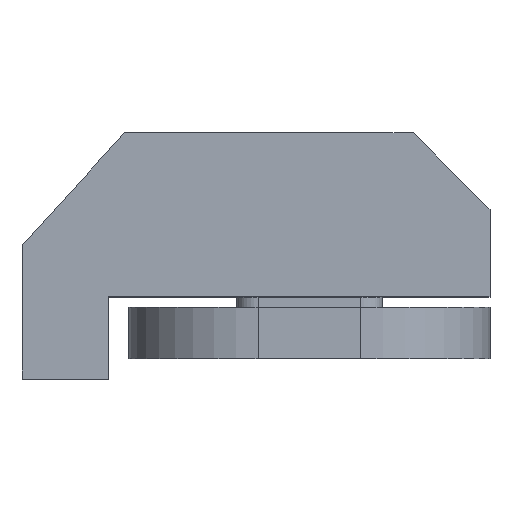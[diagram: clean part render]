
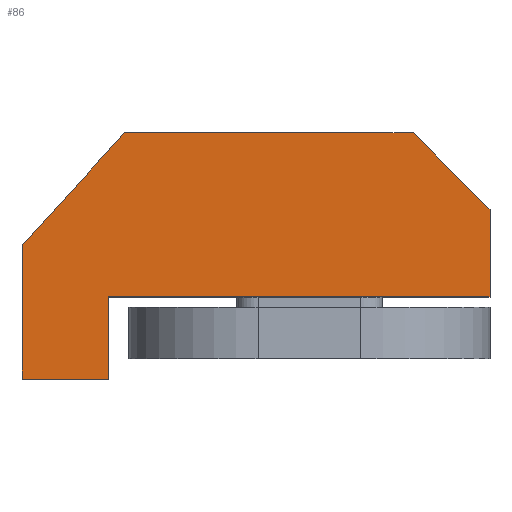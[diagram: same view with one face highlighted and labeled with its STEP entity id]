
A CAD part, top view. The second image highlights one B-rep face of the part: STEP entity #86.
In plain terms, the highlighted planar face has unit normal (0, 0, 1).
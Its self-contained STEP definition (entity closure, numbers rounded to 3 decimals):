
#86=ADVANCED_FACE('',(#137),#138,.T.);
#137=FACE_OUTER_BOUND('',#189,.T.);
#138=PLANE('',#190);
#189=EDGE_LOOP('',(#369,#370,#371,#372,#373,#374,#375,#376));
#190=AXIS2_PLACEMENT_3D('',#377,#378,#379);
#369=ORIENTED_EDGE('',*,*,#427,.F.);
#370=ORIENTED_EDGE('',*,*,#449,.F.);
#371=ORIENTED_EDGE('',*,*,#446,.F.);
#372=ORIENTED_EDGE('',*,*,#443,.F.);
#373=ORIENTED_EDGE('',*,*,#440,.F.);
#374=ORIENTED_EDGE('',*,*,#437,.F.);
#375=ORIENTED_EDGE('',*,*,#434,.F.);
#376=ORIENTED_EDGE('',*,*,#431,.F.);
#377=CARTESIAN_POINT('',(-71.059,130.753,146.0));
#378=DIRECTION('',(0.0,0.0,1.0));
#379=DIRECTION('',(1.0,0.0,0.0));
#427=EDGE_CURVE('',#511,#512,#513,.T.);
#431=EDGE_CURVE('',#512,#519,#520,.T.);
#434=EDGE_CURVE('',#519,#524,#525,.T.);
#437=EDGE_CURVE('',#524,#529,#530,.T.);
#440=EDGE_CURVE('',#529,#534,#535,.T.);
#443=EDGE_CURVE('',#534,#539,#540,.T.);
#446=EDGE_CURVE('',#539,#544,#545,.T.);
#449=EDGE_CURVE('',#544,#511,#549,.T.);
#511=VERTEX_POINT('',#635);
#512=VERTEX_POINT('',#636);
#513=LINE('',#637,#638);
#519=VERTEX_POINT('',#647);
#520=LINE('',#648,#649);
#524=VERTEX_POINT('',#655);
#525=LINE('',#656,#657);
#529=VERTEX_POINT('',#663);
#530=LINE('',#664,#665);
#534=VERTEX_POINT('',#671);
#535=LINE('',#672,#673);
#539=VERTEX_POINT('',#679);
#540=LINE('',#680,#681);
#544=VERTEX_POINT('',#687);
#545=LINE('',#688,#689);
#549=LINE('',#695,#696);
#635=CARTESIAN_POINT('',(-280.0,130.0,146.0));
#636=CARTESIAN_POINT('',(-180.0,240.0,146.0));
#637=CARTESIAN_POINT('',(-280.0,130.0,146.0));
#638=VECTOR('',#759,1.0);
#647=CARTESIAN_POINT('',(101.0,240.0,146.0));
#648=CARTESIAN_POINT('',(-180.0,240.0,146.0));
#649=VECTOR('',#763,1.0);
#655=CARTESIAN_POINT('',(176.0,165.0,146.0));
#656=CARTESIAN_POINT('',(101.0,240.0,146.0));
#657=VECTOR('',#766,1.0);
#663=CARTESIAN_POINT('',(176.0,80.0,146.0));
#664=CARTESIAN_POINT('',(176.0,165.0,146.0));
#665=VECTOR('',#769,1.0);
#671=CARTESIAN_POINT('',(-196.0,80.0,146.0));
#672=CARTESIAN_POINT('',(176.0,80.0,146.0));
#673=VECTOR('',#772,1.0);
#679=CARTESIAN_POINT('',(-196.0,0.0,146.0));
#680=CARTESIAN_POINT('',(-196.0,80.0,146.0));
#681=VECTOR('',#775,1.0);
#687=CARTESIAN_POINT('',(-280.0,0.0,146.0));
#688=CARTESIAN_POINT('',(-196.0,0.0,146.0));
#689=VECTOR('',#778,1.0);
#695=CARTESIAN_POINT('',(-280.0,0.0,146.0));
#696=VECTOR('',#781,1.0);
#759=DIRECTION('',(0.673,0.74,0.0));
#763=DIRECTION('',(1.0,0.0,0.0));
#766=DIRECTION('',(0.707,-0.707,0.0));
#769=DIRECTION('',(0.0,-1.0,0.0));
#772=DIRECTION('',(-1.0,0.0,0.0));
#775=DIRECTION('',(0.0,-1.0,0.0));
#778=DIRECTION('',(-1.0,0.0,0.0));
#781=DIRECTION('',(0.0,1.0,0.0));
